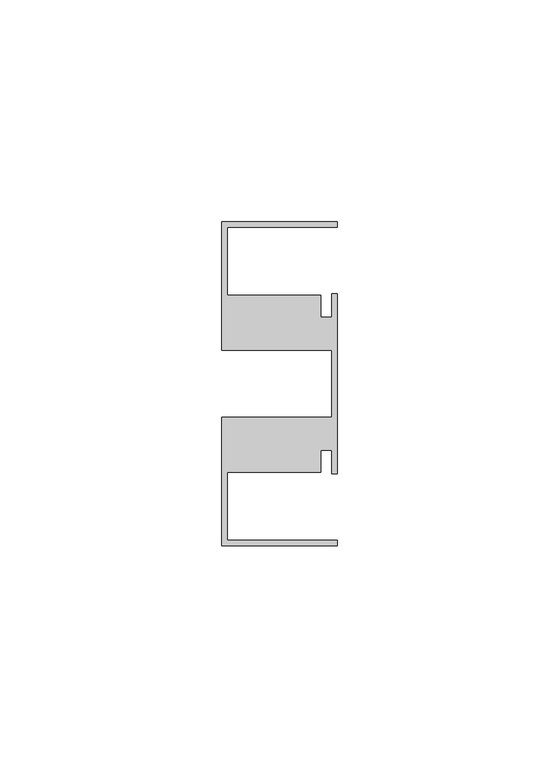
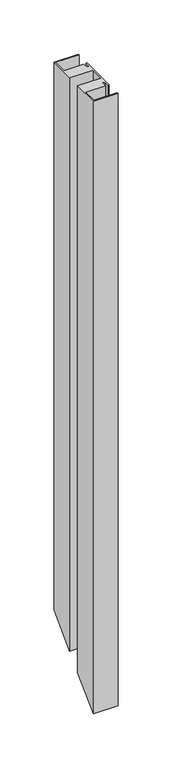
"""IFC4 building model written with IfcOpenShell, lengths in millimetres: member geometry, Прямоугольный импост : 9-AMG-1-Профиль 26Х73 Верх П."""

from ifc_helpers import new_model, si_unit, origin, place, context, project, spatial, faceted_brep, source, transform, mapped, element, save


def member_273d53b6(model_context):
    return source(origin(), model_context, "Body", "Brep", [
        faceted_brep([(-26.0, -36.5, 0.0), (0.0, -36.5, 0.0), (0.0, -35.3, 0.0), (-24.8, -35.3, 0.0), (-24.8, -20.0, 0.0), (-3.7, -20.0, 0.0), (-3.7, -14.95, 0.0), (-1.2, -14.95, 0.0), (-1.2, -20.3007529, 0.0), (0.0, -20.3007529, 0.0), (0.0, 20.3007529, 0.0), (-1.2, 20.3007529, 0.0), (-1.2, 14.95, 0.0), (-3.7, 14.95, 0.0), (-3.7, 20.0, 0.0), (-24.8, 20.0, 0.0), (-24.8, 35.3, 0.0), (0.0, 35.3, 0.0), (0.0, 36.5, 0.0), (-26.0, 36.5, 0.0), (-26.0, 7.5116043, 0.0), (-1.2, 7.5116043, 0.0), (-1.2, -7.5116043, 0.0), (-26.0, -7.5116043, 0.0), (-26.0, -36.5, -690.5), (0.0, -36.5, -690.5), (0.0, -35.3, -689.3), (-24.8, -35.3, -689.3), (-24.8, -20.0, -674.0), (-3.7, -20.0, -674.0), (-3.7, -14.95, -668.95), (-1.2, -14.95, -668.95), (-1.2, -20.3007529, -674.3007529), (0.0, -20.3007529, -674.3007529), (0.0, 20.3007529, -633.6992471), (-1.2, 20.3007529, -633.6992471), (-1.2, 14.95, -639.05), (-3.7, 14.95, -639.05), (-3.7, 20.0, -634.0), (-24.8, 20.0, -634.0), (-24.8, 35.3, -618.7), (0.0, 35.3, -618.7), (0.0, 36.5, -617.5), (-26.0, 36.5, -617.5), (-26.0, 7.5116043, -646.4883957), (-1.2, 7.5116043, -646.4883957), (-1.2, -7.5116043, -661.5116043), (-26.0, -7.5116043, -661.5116043)], [[[0, 1, 2, 3, 4, 5, 6, 7, 8, 9, 10, 11, 12, 13, 14, 15, 16, 17, 18, 19, 20, 21, 22, 23]], [[1, 0, 24, 25]], [[2, 1, 25, 26]], [[3, 2, 26, 27]], [[4, 3, 27, 28]], [[5, 4, 28, 29]], [[6, 5, 29, 30]], [[7, 6, 30, 31]], [[8, 7, 31, 32]], [[9, 8, 32, 33]], [[10, 9, 33, 34]], [[11, 10, 34, 35]], [[12, 11, 35, 36]], [[13, 12, 36, 37]], [[14, 13, 37, 38]], [[15, 14, 38, 39]], [[16, 15, 39, 40]], [[17, 16, 40, 41]], [[18, 17, 41, 42]], [[19, 18, 42, 43]], [[20, 19, 43, 44]], [[21, 20, 44, 45]], [[22, 21, 45, 46]], [[23, 22, 46, 47]], [[0, 23, 47, 24]], [[24, 47, 46, 45, 44, 43, 42, 41, 40, 39, 38, 37, 36, 35, 34, 33, 32, 31, 30, 29, 28, 27, 26, 25]]]),
    ])


if __name__ == "__main__":
    model = new_model("IFC4")
    model_context = context("Model", 3, world=origin())
    ifc_project = project(units=[si_unit("LENGTHUNIT", "METRE", prefix="MILLI")], contexts=[model_context])
    site = spatial("IfcSite", under=ifc_project)
    building = spatial("IfcBuilding", under=site)
    placement = place(None, origin())
    member_shape = member_273d53b6(model_context)
    element("IfcMember", 1, ObjectType="Прямоугольный импост : 9-AMG-1-Профиль 26Х73 Верх П", at=placement, inside=building, context=model_context, shape_type="MappedRepresentation", body=[
        mapped(member_shape, transform((0.0, 0.0, 0.0), x_axis=(1.0, 0.0, 0.0), y_axis=(0.0, 1.0, 0.0), z_axis=(0.0, 0.0, 1.0))),
    ])
    save(model, "model.ifc")
